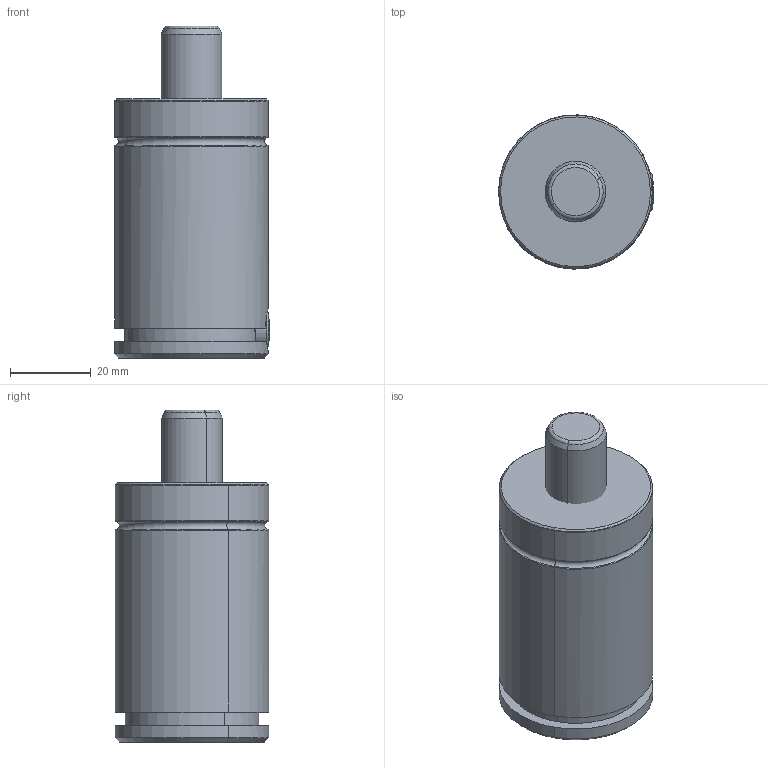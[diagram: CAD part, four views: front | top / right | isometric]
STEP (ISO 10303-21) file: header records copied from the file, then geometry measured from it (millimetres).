
FILE_DESCRIPTION(('CATIA V5 STEP Exchange'),'2;1');
FILE_NAME('W:\CATALOGO GENERAL 2018\FICHEROS CAD\004-TPS\TPS 250.1\TPS 250x16.1.stp','2017-10-31T14:01:16+00:00',('none'),('none'),'CATIA Version 5 Release 17 (IN-10)','CATIA V5 STEP AP203','none');
FILE_SCHEMA(('CONFIG_CONTROL_DESIGN'));
Length unit declared in the file: millimetre
Products named in the file (1): TPS 250x16.1
Assembly tree (3 placements, depth 2):
  TPS 250x16.1
    #56
    #1575
    #2137
Bounding box: 38.23 x 37.99 x 82 mm (x, y, z)
Volume: 79422.8 mm3; surface area: 15433.9 mm2
Topology: 3 solids, 3 shells, 150 faces, 333 edges, 188 vertices
Faces by surface type: cone 46, torus 40, cylinder 37, plane 19, bspline 8
Entity records: 3976 total; most frequent: CARTESIAN_POINT 988, ORIENTED_EDGE 646, DIRECTION 470, EDGE_CURVE 323, AXIS2_PLACEMENT_3D 277, VERTEX_POINT 188, CIRCLE 182, EDGE_LOOP 159
